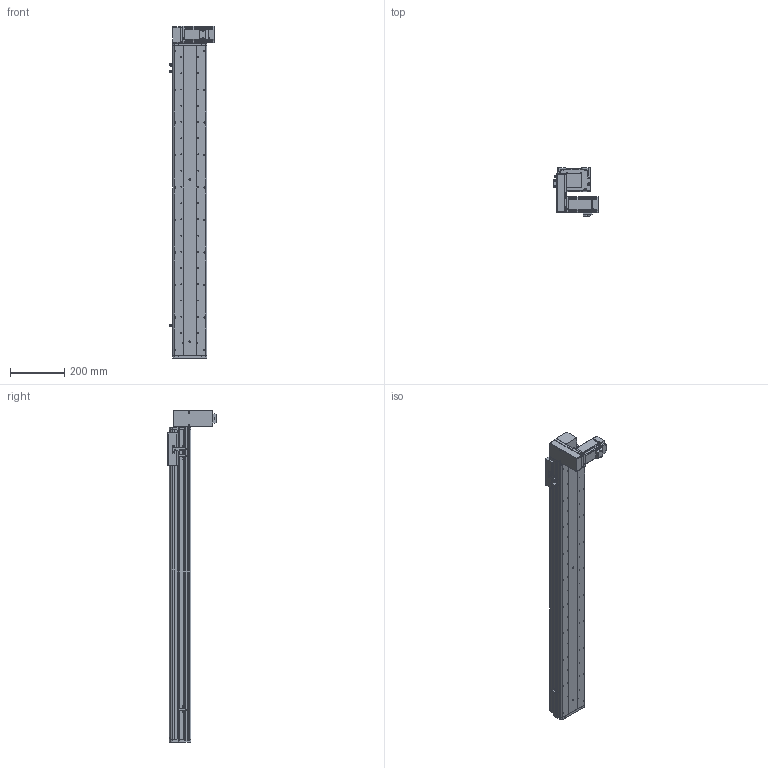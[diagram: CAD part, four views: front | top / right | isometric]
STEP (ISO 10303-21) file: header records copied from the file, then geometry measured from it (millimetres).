
FILE_DESCRIPTION (( 'STEP AP214' ), '1' );
FILE_NAME ('KSD125B-S950-MRD-CM.STEP', '2017-10-21T06:17:04', ( '微软用户' ), ( '微软中国' ), 'SwSTEP 2.0', 'SolidWorks 2014', '' );
FILE_SCHEMA (( 'AUTOMOTIVE_DESIGN' ));
Length unit declared in the file: millimetre
Products named in the file (17): 125模组同步带-尾端板1; KSD125模组同步带-滑动座1; KSD125B-S950-MRD-CM; 悵誘欶奻狟殏; HTPA30S3M150_A_H6_a佪裝蚚; HTPA30S3M150_A_H6_a萇儂蚚; 100宽马达安装板连板上下折丝杆同步带; KSD125模组950行程同步带-防尘盖; 125模组950行程同步带-底板; MHMD042G1CA_2_03; KSD125模组同步带-防撞垫2; 覜茼え68遵圉猾敕; U倰嫖萇假蚾璃; U倰嫖萇EEㄜSX672; KSD125模组同步带-防撞垫1; 100宽马达安装板同步带右; 前端板-125宽模组同步带
Assembly tree (20 placements, depth 2):
  KSD125B-S950-MRD-CM
    KSD125模组同步带-滑动座1
    125模组同步带-尾端板1
    前端板-125宽模组同步带
    100宽马达安装板同步带右
    KSD125模组同步带-防撞垫1
    U倰嫖萇EEㄜSX672  x3
    U倰嫖萇假蚾璃  x3
    覜茼え68遵圉猾敕
    KSD125模组同步带-防撞垫2
    MHMD042G1CA_2_03
    125模组950行程同步带-底板
    KSD125模组950行程同步带-防尘盖
    100宽马达安装板连板上下折丝杆同步带
    HTPA30S3M150_A_H6_a萇儂蚚
    HTPA30S3M150_A_H6_a佪裝蚚
    悵誘欶奻狟殏
Bounding box: 168.7 x 179.5 x 1227 mm (x, y, z)
Volume: 3791965.8 mm3; surface area: 1278747.7 mm2
Topology: 19 solids, 22 shells, 2307 faces, 6685 edges, 4418 vertices
Faces by surface type: cylinder 1452, plane 728, cone 105, bspline 22
Entity records: 82151 total; most frequent: CARTESIAN_POINT 16215, DIRECTION 12770, ORIENTED_EDGE 11890, EDGE_CURVE 6023, AXIS2_PLACEMENT_3D 4941, VERTEX_POINT 4010, LINE 2888, VECTOR 2888
